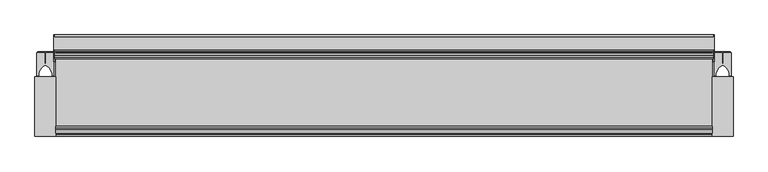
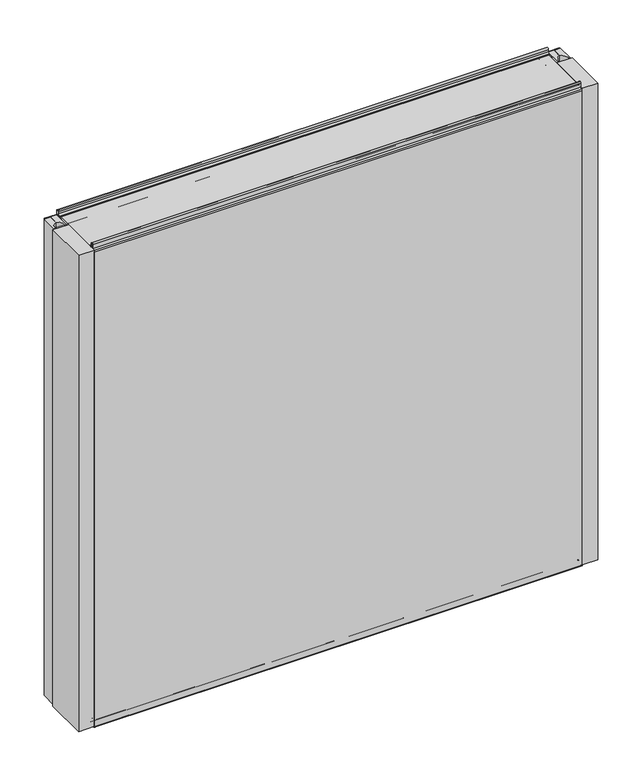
"""IFC4 building model written with IfcOpenShell, lengths in millimetres: plate geometry, Fronttop : Fronttop 150/1000."""

from ifc_helpers import new_model, si_unit, point, frame, frame_2d, origin, origin_with_axes, place, context, project, spatial, polyline, circle_curve, trimmed, segment, composite_curve, outline, extrude, source, transform, mapped, element, save
from ifc_brep_helpers import plane_surface, cylinder_surface, revolved_surface, advanced_brep


def plate_a368a3c0(model_context):
    return source(origin(), model_context, "Body", "SolidModel", [
        advanced_brep(
        [(-486.5, 124.0, 1008.0), (-486.5, 121.0, 1008.0), (-486.5, 121.0, 1004.0), (-486.5, 117.0, 1000.0), (-486.5, 115.0, 1000.0), (-486.5, 115.0, 1001.0), (-486.5, 117.0, 1001.0), (-486.5, 120.0, 1004.0), (-486.5, 120.0, 1008.0), (-486.5, 125.0, 1008.0), (-486.5, 125.0, 1000.0), (-486.5, 124.0, 1000.0), (486.5, 125.0, 1008.0), (486.5, 120.0, 1008.0), (486.5, 120.0, 1004.0), (486.5, 117.0, 1001.0), (486.5, 115.0, 1001.0), (486.5, 115.0, 1000.0), (486.5, 117.0, 1000.0), (486.5, 121.0, 1004.0), (486.5, 121.0, 1008.0), (486.5, 124.0, 1008.0), (486.5, 124.0, 1000.0), (486.5, 125.0, 1000.0), (-486.5, 117.0, 2.0), (486.5, 117.0, 2.0), (486.5, 115.0, 2.0), (-486.5, 115.0, 2.0), (-486.5, 119.0, 4.0), (486.5, 119.0, 4.0), (-486.5, 119.0, 8.0), (486.5, 119.0, 8.0), (-486.5, 126.0, 8.0), (486.5, 126.0, 8.0), (-486.5, 126.0, 0.0), (486.5, 126.0, 0.0), (-486.5, 129.0, -3.0), (486.5, 129.0, -3.0), (-486.5, 125.0, -3.0), (-487.5, 125.0, -3.0), (-487.5, 147.0, -3.0), (-486.5, 147.0, -3.0), (486.5, 147.0, -3.0), (487.5, 147.0, -3.0), (487.5, 125.0, -3.0), (486.5, 125.0, -3.0), (-486.5, 150.0, 0.0), (486.5, 150.0, 0.0), (-487.5, 150.0, 0.0), (-487.5, 150.0, 969.0), (-486.5, 150.0, 969.0), (486.5, 150.0, 969.0), (487.5, 150.0, 969.0), (487.5, 150.0, 0.0), (-486.5, 147.0, 972.0), (486.5, 147.0, 972.0), (-487.5, 147.0, 972.0), (-487.5, 128.0, 972.0), (-486.5, 128.0, 972.0), (486.5, 128.0, 972.0), (487.5, 128.0, 972.0), (487.5, 147.0, 972.0), (-486.5, 125.0, 975.0), (486.5, 125.0, 975.0), (-487.5, 125.0, 975.0), (-487.5, 125.0, 1000.0), (487.5, 125.0, 1000.0), (487.5, 125.0, 975.0), (-486.5, 124.0, 975.0), (486.5, 124.0, 975.0), (-486.5, 128.0, 971.0), (486.5, 128.0, 971.0), (-486.5, 147.0, 971.0), (486.5, 147.0, 971.0), (-486.5, 149.0, 969.0), (486.5, 149.0, 969.0), (-486.5, 149.0, 0.0), (486.5, 149.0, 0.0), (-486.5, 147.0, -2.0), (486.5, 147.0, -2.0), (-486.5, 129.0, -2.0), (486.5, 129.0, -2.0), (-486.5, 127.0, 0.0), (486.5, 127.0, 0.0), (-486.5, 127.0, 8.0), (486.5, 127.0, 8.0), (-486.5, 118.0, 8.0), (486.5, 118.0, 8.0), (-486.5, 118.0, 4.0), (486.5, 118.0, 4.0), (-486.5, 117.0, 3.0), (486.5, 117.0, 3.0), (-486.5, 115.0, 3.0), (486.5, 115.0, 3.0), (487.5, 110.0, 1000.0), (487.5, 110.0, 0.0), (487.5, 125.0, 0.0), (486.5, 125.0, 0.0), (486.5, 110.0, 0.0), (486.5, 110.0, 1000.0), (-487.5, 125.0, 0.0), (-487.5, 110.0, 0.0), (-487.5, 110.0, 1000.0), (-486.5, 110.0, 1000.0), (-486.5, 110.0, 0.0), (-486.5, 125.0, 0.0)],
        [
            (0, 1, circle_curve(frame((-486.5, 122.5, 1008.0), z_axis=(1.0, 0.0, 0.0), x_axis=(0.0, -1.0, 0.0)), 1.5)),
            (1, 2),
            (2, 3, circle_curve(frame((-486.5, 117.0, 1004.0), z_axis=(-1.0, 0.0, 0.0), x_axis=(0.0, -1.0, 0.0)), 4.0)),
            (3, 4),
            (4, 5),
            (5, 6),
            (6, 7, circle_curve(frame((-486.5, 117.0, 1004.0), z_axis=(1.0, 0.0, 0.0), x_axis=(0.0, -1.0, 0.0)), 3.0)),
            (7, 8),
            (8, 9, circle_curve(frame((-486.5, 122.5, 1008.0), z_axis=(-1.0, 0.0, 0.0), x_axis=(0.0, -1.0, 0.0)), 2.5)),
            (9, 10),
            (10, 11),
            (11, 0),
            (12, 13, circle_curve(frame((486.5, 122.5, 1008.0), z_axis=(1.0, 0.0, 0.0), x_axis=(0.0, -1.0, 0.0)), 2.5)),
            (13, 14),
            (14, 15, circle_curve(frame((486.5, 117.0, 1004.0), z_axis=(-1.0, 0.0, 0.0), x_axis=(0.0, -1.0, 0.0)), 3.0)),
            (15, 16),
            (16, 17),
            (17, 18),
            (18, 19, circle_curve(frame((486.5, 117.0, 1004.0), z_axis=(1.0, 0.0, 0.0), x_axis=(0.0, -1.0, 0.0)), 4.0)),
            (19, 20),
            (20, 21, circle_curve(frame((486.5, 122.5, 1008.0), z_axis=(-1.0, 0.0, 0.0), x_axis=(0.0, -1.0, 0.0)), 1.5)),
            (21, 22),
            (22, 23),
            (23, 12),
            (24, 25),
            (25, 26),
            (26, 27),
            (27, 24),
            (24, 28, circle_curve(frame((-486.5, 117.0, 4.0), z_axis=(1.0, 0.0, 0.0), x_axis=(0.0, -1.0, 0.0)), 2.0)),
            (28, 29),
            (29, 25, circle_curve(frame((486.5, 117.0, 4.0), z_axis=(-1.0, 0.0, 0.0), x_axis=(0.0, -1.0, 0.0)), 2.0)),
            (28, 30),
            (30, 31),
            (31, 29),
            (30, 32, circle_curve(frame((-486.5, 122.5, 8.0), z_axis=(-1.0, 0.0, 0.0), x_axis=(0.0, -1.0, 0.0)), 3.5)),
            (32, 33),
            (33, 31, circle_curve(frame((486.5, 122.5, 8.0), z_axis=(1.0, 0.0, 0.0), x_axis=(0.0, -1.0, 0.0)), 3.5)),
            (32, 34),
            (34, 35),
            (35, 33),
            (34, 36, circle_curve(frame((-486.5, 129.0, 0.0), z_axis=(1.0, 0.0, 0.0), x_axis=(0.0, -1.0, 0.0)), 3.0)),
            (36, 37),
            (37, 35, circle_curve(frame((486.5, 129.0, 0.0), z_axis=(-1.0, 0.0, 0.0), x_axis=(0.0, -1.0, 0.0)), 3.0)),
            (36, 38),
            (38, 39),
            (39, 40),
            (40, 41),
            (41, 42),
            (42, 43),
            (43, 44),
            (44, 45),
            (45, 37),
            (41, 46, circle_curve(frame((-486.5, 147.0, 0.0), z_axis=(1.0, 0.0, 0.0), x_axis=(0.0, -1.0, 0.0)), 3.0)),
            (46, 47),
            (47, 42, circle_curve(frame((486.5, 147.0, 0.0), z_axis=(-1.0, 0.0, 0.0), x_axis=(0.0, -1.0, 0.0)), 3.0)),
            (46, 48),
            (48, 49),
            (49, 50),
            (50, 51),
            (51, 52),
            (52, 53),
            (53, 47),
            (50, 54, circle_curve(frame((-486.5, 147.0, 969.0), z_axis=(1.0, 0.0, 0.0), x_axis=(0.0, -1.0, 0.0)), 3.0)),
            (54, 55),
            (55, 51, circle_curve(frame((486.5, 147.0, 969.0), z_axis=(-1.0, 0.0, 0.0), x_axis=(0.0, -1.0, 0.0)), 3.0)),
            (54, 56),
            (56, 57),
            (57, 58),
            (58, 59),
            (59, 60),
            (60, 61),
            (61, 55),
            (58, 62, circle_curve(frame((-486.5, 128.0, 975.0), z_axis=(-1.0, 0.0, 0.0), x_axis=(0.0, -1.0, 0.0)), 3.0)),
            (62, 63),
            (63, 59, circle_curve(frame((486.5, 128.0, 975.0), z_axis=(1.0, 0.0, 0.0), x_axis=(0.0, -1.0, 0.0)), 3.0)),
            (62, 64),
            (64, 65),
            (65, 10),
            (9, 12),
            (23, 66),
            (66, 67),
            (67, 63),
            (8, 13),
            (7, 14),
            (6, 15),
            (5, 16),
            (4, 17),
            (4, 3),
            (3, 18),
            (18, 17),
            (2, 19),
            (1, 20),
            (0, 21),
            (11, 68),
            (68, 69),
            (69, 22),
            (68, 70, circle_curve(frame((-486.5, 128.0, 975.0), z_axis=(1.0, 0.0, 0.0), x_axis=(0.0, -1.0, 0.0)), 4.0)),
            (70, 71),
            (71, 69, circle_curve(frame((486.5, 128.0, 975.0), z_axis=(-1.0, 0.0, 0.0), x_axis=(0.0, -1.0, 0.0)), 4.0)),
            (70, 72),
            (72, 73),
            (73, 71),
            (72, 74, circle_curve(frame((-486.5, 147.0, 969.0), z_axis=(-1.0, 0.0, 0.0), x_axis=(0.0, -1.0, 0.0)), 2.0)),
            (74, 75),
            (75, 73, circle_curve(frame((486.5, 147.0, 969.0), z_axis=(1.0, 0.0, 0.0), x_axis=(0.0, -1.0, 0.0)), 2.0)),
            (74, 76),
            (76, 77),
            (77, 75),
            (76, 78, circle_curve(frame((-486.5, 147.0, 0.0), z_axis=(-1.0, 0.0, 0.0), x_axis=(0.0, -1.0, 0.0)), 2.0)),
            (78, 79),
            (79, 77, circle_curve(frame((486.5, 147.0, 0.0), z_axis=(1.0, 0.0, 0.0), x_axis=(0.0, -1.0, 0.0)), 2.0)),
            (78, 80),
            (80, 81),
            (81, 79),
            (80, 82, circle_curve(frame((-486.5, 129.0, 0.0), z_axis=(-1.0, 0.0, 0.0), x_axis=(0.0, -1.0, 0.0)), 2.0)),
            (82, 83),
            (83, 81, circle_curve(frame((486.5, 129.0, 0.0), z_axis=(1.0, 0.0, 0.0), x_axis=(0.0, -1.0, 0.0)), 2.0)),
            (82, 84),
            (84, 85),
            (85, 83),
            (84, 86, circle_curve(frame((-486.5, 122.5, 8.0), z_axis=(1.0, 0.0, 0.0), x_axis=(0.0, -1.0, 0.0)), 4.5)),
            (86, 87),
            (87, 85, circle_curve(frame((486.5, 122.5, 8.0), z_axis=(-1.0, 0.0, 0.0), x_axis=(0.0, -1.0, 0.0)), 4.5)),
            (86, 88),
            (88, 89),
            (89, 87),
            (88, 90, circle_curve(frame((-486.5, 117.0, 4.0), z_axis=(-1.0, 0.0, 0.0), x_axis=(0.0, -1.0, 0.0)), 1.0)),
            (90, 91),
            (91, 89, circle_curve(frame((486.5, 117.0, 4.0), z_axis=(1.0, 0.0, 0.0), x_axis=(0.0, -1.0, 0.0)), 1.0)),
            (90, 92),
            (92, 93),
            (93, 91),
            (26, 93),
            (92, 27),
            (66, 94),
            (94, 95),
            (95, 96),
            (96, 44),
            (43, 53, circle_curve(frame((487.5, 147.0, 0.0), z_axis=(1.0, 0.0, 0.0), x_axis=(0.0, 1.0, 0.0)), 3.0)),
            (52, 61, circle_curve(frame((487.5, 147.0, 969.0), z_axis=(1.0, 0.0, 0.0), x_axis=(0.0, 1.0, 0.0)), 3.0)),
            (60, 67, circle_curve(frame((487.5, 128.0, 975.0), z_axis=(-1.0, 0.0, 0.0), x_axis=(0.0, 1.0, 0.0)), 3.0)),
            (45, 97),
            (97, 98),
            (98, 99),
            (99, 17),
            (18, 22),
            (99, 94),
            (98, 95),
            (97, 96),
            (64, 57, circle_curve(frame((-487.5, 128.0, 975.0), z_axis=(1.0, 0.0, 0.0), x_axis=(0.0, 1.0, 0.0)), 3.0)),
            (56, 49, circle_curve(frame((-487.5, 147.0, 969.0), z_axis=(-1.0, 0.0, 0.0), x_axis=(0.0, 1.0, 0.0)), 3.0)),
            (48, 40, circle_curve(frame((-487.5, 147.0, 0.0), z_axis=(-1.0, 0.0, 0.0), x_axis=(0.0, 1.0, 0.0)), 3.0)),
            (39, 100),
            (100, 101),
            (101, 102),
            (102, 65),
            (103, 104),
            (104, 105),
            (105, 38),
            (11, 3),
            (4, 103),
            (102, 103),
            (101, 104),
            (100, 105),
        ],
        [
            plane_surface(frame((-486.5, 0.0, 0.0), z_axis=(-1.0, 0.0, 0.0), x_axis=(0.0, 0.0, 1.0))),
            plane_surface(frame((486.5, 0.0, 0.0), z_axis=(1.0, 0.0, 0.0), x_axis=(0.0, 0.0, 1.0))),
            plane_surface(frame((-486.5, 117.0, 2.0), z_axis=(0.0, 0.0, -1.0), x_axis=(1.0, 0.0, 0.0))),
            cylinder_surface(frame((-486.5, 117.0, 4.0), z_axis=(-1.0, 0.0, 0.0), x_axis=(0.0, -1.0, 0.0)), 2.0),
            plane_surface(frame((-486.5, 119.0, 8.0), z_axis=(0.0, 1.0, 0.0), x_axis=(1.0, 0.0, 0.0))),
            revolved_surface(polyline([(486.5, 119.0, 8.0), (-486.5, 119.0, 8.0)]), (-486.5, 122.5, 8.0), (1.0, 0.0, 0.0)),
            plane_surface(frame((-486.5, 126.0, 0.0), z_axis=(0.0, -1.0, 0.0), x_axis=(1.0, 0.0, 0.0))),
            cylinder_surface(frame((-486.5, 129.0, 0.0), z_axis=(-1.0, 0.0, 0.0), x_axis=(0.0, -1.0, 0.0)), 3.0),
            plane_surface(frame((-486.5, 147.0, -3.0), z_axis=(0.0, 0.0, -1.0), x_axis=(1.0, 0.0, 0.0))),
            cylinder_surface(frame((-486.5, 147.0, 0.0), z_axis=(-1.0, 0.0, 0.0), x_axis=(0.0, -1.0, 0.0)), 3.0),
            plane_surface(frame((-486.5, 150.0, 969.0), z_axis=(0.0, 1.0, 0.0), x_axis=(1.0, 0.0, 0.0))),
            cylinder_surface(frame((-486.5, 147.0, 969.0), z_axis=(-1.0, 0.0, 0.0), x_axis=(0.0, -1.0, 0.0)), 3.0),
            plane_surface(frame((-486.5, 128.0, 972.0), z_axis=(0.0, 0.0, 1.0), x_axis=(1.0, 0.0, 0.0))),
            revolved_surface(polyline([(486.5, 125.0, 975.0), (-486.5, 125.0, 975.0)]), (-486.5, 128.0, 975.0), (1.0, 0.0, 0.0)),
            plane_surface(frame((-486.5, 125.0, 1008.0), z_axis=(0.0, 1.0, 0.0), x_axis=(1.0, 0.0, 0.0))),
            cylinder_surface(frame((-486.5, 122.5, 1008.0), z_axis=(-1.0, 0.0, 0.0), x_axis=(0.0, -1.0, 0.0)), 2.5),
            plane_surface(frame((-486.5, 120.0, 1004.0), z_axis=(0.0, -1.0, 0.0), x_axis=(1.0, 0.0, 0.0))),
            revolved_surface(polyline([(486.5, 114.0, 1004.0), (-486.5, 114.0, 1004.0)]), (-486.5, 117.0, 1004.0), (1.0, 0.0, 0.0)),
            plane_surface(frame((-486.5, 115.0, 1001.0), z_axis=(0.0, 0.0, 1.0), x_axis=(1.0, 0.0, 0.0))),
            plane_surface(frame((-486.5, 115.0, 1000.0), z_axis=(0.0, -1.0, 0.0), x_axis=(1.0, 0.0, 0.0))),
            plane_surface(frame((-486.5, 117.0, 1000.0), z_axis=(0.0, 0.0, -1.0), x_axis=(1.0, 0.0, 0.0))),
            cylinder_surface(frame((-486.5, 117.0, 1004.0), z_axis=(-1.0, 0.0, 0.0), x_axis=(0.0, -1.0, 0.0)), 4.0),
            plane_surface(frame((-486.5, 121.0, 1008.0), z_axis=(0.0, 1.0, 0.0), x_axis=(1.0, 0.0, 0.0))),
            revolved_surface(polyline([(486.5, 121.0, 1008.0), (-486.5, 121.0, 1008.0)]), (-486.5, 122.5, 1008.0), (1.0, 0.0, 0.0)),
            plane_surface(frame((-486.5, 124.0, 975.0), z_axis=(0.0, -1.0, 0.0), x_axis=(1.0, 0.0, 0.0))),
            cylinder_surface(frame((-486.5, 128.0, 975.0), z_axis=(-1.0, 0.0, 0.0), x_axis=(0.0, -1.0, 0.0)), 4.0),
            plane_surface(frame((-486.5, 147.0, 971.0), z_axis=(0.0, 0.0, -1.0), x_axis=(1.0, 0.0, 0.0))),
            revolved_surface(polyline([(486.5, 145.0, 969.0), (-486.5, 145.0, 969.0)]), (-486.5, 147.0, 969.0), (1.0, 0.0, 0.0)),
            plane_surface(frame((-486.5, 149.0, 0.0), z_axis=(0.0, -1.0, 0.0), x_axis=(1.0, 0.0, 0.0))),
            revolved_surface(polyline([(486.5, 145.0, 0.0), (-486.5, 145.0, 0.0)]), (-486.5, 147.0, 0.0), (1.0, 0.0, 0.0)),
            plane_surface(frame((-486.5, 129.0, -2.0), z_axis=(0.0, 0.0, 1.0), x_axis=(1.0, 0.0, 0.0))),
            revolved_surface(polyline([(486.5, 127.0, 0.0), (-486.5, 127.0, 0.0)]), (-486.5, 129.0, 0.0), (1.0, 0.0, 0.0)),
            plane_surface(frame((-486.5, 127.0, 8.0), z_axis=(0.0, 1.0, 0.0), x_axis=(1.0, 0.0, 0.0))),
            cylinder_surface(frame((-486.5, 122.5, 8.0), z_axis=(-1.0, 0.0, 0.0), x_axis=(0.0, -1.0, 0.0)), 4.5),
            plane_surface(frame((-486.5, 118.0, 4.0), z_axis=(0.0, -1.0, 0.0), x_axis=(1.0, 0.0, 0.0))),
            revolved_surface(polyline([(486.5, 116.0, 4.0), (-486.5, 116.0, 4.0)]), (-486.5, 117.0, 4.0), (1.0, 0.0, 0.0)),
            plane_surface(frame((-486.5, 115.0, 3.0), z_axis=(0.0, 0.0, 1.0), x_axis=(1.0, 0.0, 0.0))),
            plane_surface(frame((-486.5, 115.0, 2.0), z_axis=(0.0, -1.0, 0.0), x_axis=(1.0, 0.0, 0.0))),
            plane_surface(frame((487.5, 125.0, 1000.0), z_axis=(1.0, 0.0, 0.0), x_axis=(0.0, -1.0, 0.0))),
            plane_surface(frame((486.5, 125.0, 1000.0), z_axis=(-1.0, 0.0, 0.0), x_axis=(0.0, 1.0, 0.0))),
            plane_surface(frame((487.5, 125.0, 1000.0), z_axis=(0.0, 0.0, 1.0), x_axis=(-1.0, 0.0, 0.0))),
            plane_surface(frame((487.5, 110.0, 1000.0), z_axis=(0.0, -1.0, 0.0), x_axis=(-1.0, 0.0, 0.0))),
            plane_surface(frame((487.5, 110.0, 0.0), z_axis=(0.0, 0.0, -1.0), x_axis=(-1.0, 0.0, 0.0))),
            cylinder_surface(frame((486.5, 147.0, 0.0), z_axis=(1.0, 0.0, 0.0), x_axis=(0.0, 1.0, 0.0)), 3.0),
            cylinder_surface(frame((486.5, 147.0, 969.0), z_axis=(1.0, 0.0, 0.0), x_axis=(0.0, 1.0, 0.0)), 3.0),
            revolved_surface(polyline([(486.5, 131.0, 975.0), (487.5, 131.0, 975.0)]), (486.5, 128.0, 975.0), (-1.0, 0.0, 0.0)),
            plane_surface(frame((-487.5, 125.0, 1000.0), z_axis=(-1.0, 0.0, 0.0), x_axis=(0.0, 1.0, 0.0))),
            plane_surface(frame((-486.5, 125.0, 1000.0), z_axis=(1.0, 0.0, 0.0), x_axis=(0.0, -1.0, 0.0))),
            plane_surface(frame((-486.5, 125.0, 1000.0), z_axis=(0.0, 0.0, 1.0), x_axis=(-1.0, 0.0, 0.0))),
            plane_surface(frame((-486.5, 110.0, 1000.0), z_axis=(0.0, -1.0, 0.0), x_axis=(-1.0, 0.0, 0.0))),
            plane_surface(frame((-486.5, 110.0, 0.0), z_axis=(0.0, 0.0, -1.0), x_axis=(-1.0, 0.0, 0.0))),
            cylinder_surface(frame((-487.5, 147.0, 0.0), z_axis=(1.0, 0.0, 0.0), x_axis=(0.0, 1.0, 0.0)), 3.0),
            cylinder_surface(frame((-487.5, 147.0, 969.0), z_axis=(1.0, 0.0, 0.0), x_axis=(0.0, 1.0, 0.0)), 3.0),
            revolved_surface(polyline([(-487.5, 131.0, 975.0), (-486.5, 131.0, 975.0)]), (-487.5, 128.0, 975.0), (-1.0, 0.0, 0.0)),
            plane_surface(frame((487.5, 125.0, 0.0), z_axis=(0.0, -1.0, 0.0), x_axis=(-1.0, 0.0, 0.0))),
            plane_surface(frame((-486.5, 125.0, 0.0), z_axis=(0.0, -1.0, 0.0), x_axis=(-1.0, 0.0, 0.0))),
        ],
        [
            (0, [[1, 2, 3, 4, 5, 6, 7, 8, 9, 10, 11, 12]]),
            (1, [[13, 14, 15, 16, 17, 18, 19, 20, 21, 22, 23, 24]]),
            (2, [[25, 26, 27, 28]]),
            (3, [[-25, 29, 30, 31]]),
            (4, [[-30, 32, 33, 34]]),
            (5, [[-33, 35, 36, 37]]),
            (6, [[-36, 38, 39, 40]]),
            (7, [[-39, 41, 42, 43]]),
            (8, [[-42, 44, 45, 46, 47, 48, 49, 50, 51, 52]]),
            (9, [[-48, 53, 54, 55]]),
            (10, [[-54, 56, 57, 58, 59, 60, 61, 62]]),
            (11, [[-59, 63, 64, 65]]),
            (12, [[-64, 66, 67, 68, 69, 70, 71, 72]]),
            (13, [[-69, 73, 74, 75]]),
            (14, [[-74, 76, 77, 78, -10, 79, -24, 80, 81, 82]]),
            (15, [[-9, 83, -13, -79]]),
            (16, [[-8, 84, -14, -83]]),
            (17, [[-7, 85, -15, -84]]),
            (18, [[-6, 86, -16, -85]]),
            (19, [[-5, 87, -17, -86]]),
            (20, [[-87, 88, 89, 90]]),
            (21, [[-3, 91, -19, -89]]),
            (22, [[-2, 92, -20, -91]]),
            (23, [[-1, 93, -21, -92]]),
            (24, [[-93, -12, 94, 95, 96, -22]]),
            (25, [[-95, 97, 98, 99]]),
            (26, [[-98, 100, 101, 102]]),
            (27, [[-101, 103, 104, 105]]),
            (28, [[-104, 106, 107, 108]]),
            (29, [[-107, 109, 110, 111]]),
            (30, [[-110, 112, 113, 114]]),
            (31, [[-113, 115, 116, 117]]),
            (32, [[-116, 118, 119, 120]]),
            (33, [[-119, 121, 122, 123]]),
            (34, [[-122, 124, 125, 126]]),
            (35, [[-125, 127, 128, 129]]),
            (36, [[-128, 130, 131, 132]]),
            (37, [[-27, 133, -131, 134]]),
            (38, [[135, 136, 137, 138, -50, 139, -61, 140, -71, 141, -81]]),
            (39, [[142, 143, 144, 145, -90, 146, -96, -99, -102, -105, -108, -111, -114, -117, -120, -123, -126, -129, -132, -133, -26, -31, -34, -37, -40, -43, -52]]),
            (40, [[-135, -80, -23, -146, -18, -145, 147]]),
            (41, [[-136, -147, -144, 148]]),
            (42, [[-137, -148, -143, 149]]),
            (43, [[-139, -49, -55, -62]]),
            (44, [[-140, -60, -65, -72]]),
            (45, [[-141, -70, -75, -82]]),
            (46, [[-77, 150, -67, 151, -57, 152, -46, 153, 154, 155, 156]]),
            (47, [[157, 158, 159, -44, -41, -38, -35, -32, -29, -28, -134, -130, -127, -124, -121, -118, -115, -112, -109, -106, -103, -100, -97, -94, 160, -88, 161]]),
            (48, [[-156, 162, -161, -4, -160, -11, -78]]),
            (49, [[-155, 163, -157, -162]]),
            (50, [[-154, 164, -158, -163]]),
            (51, [[-152, -56, -53, -47]]),
            (52, [[-151, -66, -63, -58]]),
            (53, [[-150, -76, -73, -68]]),
            (54, [[-138, -149, -142, -51]]),
            (55, [[-153, -45, -159, -164]]),
        ],
    ),
        extrude(outline(composite_curve([segment(polyline([(-512.5001545, 123.5), (-500.75, 123.5), (-500.75, 107.5), (-499.25, 107.5), (-499.25, 123.5), (-487.4998455, 123.5), (-487.4998455, 90.0), (-490.25, 90.0), (-490.25, 92.5)]), True, "CONTINUOUS"), segment(trimmed(circle_curve(frame_2d((-508.0338021, 89.3183984)), 18.0661619), [point((-490.25, 92.5))], [point((-500.0, 105.5))], True, "CARTESIAN"), True, "CONTINUOUS"), segment(trimmed(circle_curve(frame_2d((-491.9661979, 89.3183984)), 18.0661619), [point((-500.0, 105.5))], [point((-509.75, 92.5))], True, "CARTESIAN"), True, "CONTINUOUS"), segment(polyline([(-509.75, 92.5), (-509.75, 90.0), (-512.5001545, 90.0), (-512.5001545, 123.5)]), True, "CONTINUOUS")], self_intersect=False)), origin_with_axes(), (0.0, 0.0, 1.0), 1000.0),
        extrude(outline(polyline([(-484.5, 0.0), (-515.5, 0.0), (-515.5, 88.0), (-484.5, 88.0), (-484.5, 0.0)])), origin_with_axes(), (0.0, 0.0, 1.0), 1000.0),
        extrude(outline(polyline([(-511.5051154, 125.0), (-488.4948846, 125.0), (-488.4948846, 123.5), (-499.3497504, 123.5), (-499.3497504, 109.0759655), (-500.65, 109.0759655), (-500.65, 123.5), (-511.5051154, 123.5), (-511.5051154, 125.0)])), origin_with_axes(), (0.0, 0.0, 1.0), 1000.0),
        extrude(outline(composite_curve([segment(polyline([(487.4998455, 123.5), (499.25, 123.5), (499.25, 107.5), (500.75, 107.5), (500.75, 123.5), (512.5001545, 123.5), (512.5001545, 90.0), (509.75, 90.0), (509.75, 92.5)]), True, "CONTINUOUS"), segment(trimmed(circle_curve(frame_2d((491.9661979, 89.3183984)), 18.0661619), [point((509.75, 92.5))], [point((500.0, 105.5))], True, "CARTESIAN"), True, "CONTINUOUS"), segment(trimmed(circle_curve(frame_2d((508.0338021, 89.3183984)), 18.0661619), [point((500.0, 105.5))], [point((490.25, 92.5))], True, "CARTESIAN"), True, "CONTINUOUS"), segment(polyline([(490.25, 92.5), (490.25, 90.0), (487.4998455, 90.0), (487.4998455, 123.5)]), True, "CONTINUOUS")], self_intersect=False)), origin_with_axes(), (0.0, 0.0, 1.0), 1000.0),
        extrude(outline(polyline([(515.5, 0.0), (484.5, 0.0), (484.5, 88.0), (515.5, 88.0), (515.5, 0.0)])), origin_with_axes(), (0.0, 0.0, 1.0), 1000.0),
        extrude(outline(polyline([(488.4948846, 125.0), (511.5051154, 125.0), (511.5051154, 123.5), (500.6502496, 123.5), (500.6502496, 109.0759655), (499.35, 109.0759655), (499.35, 123.5), (488.4948846, 123.5), (488.4948846, 125.0)])), origin_with_axes(), (0.0, 0.0, 1.0), 1000.0),
        advanced_brep(
        [(-484.5, 13.0, 1001.0), (-484.5, 15.0, 1001.0), (-484.5, 15.0, 1000.0), (-484.5, 13.0, 1000.0), (-484.5, 9.0, 1004.0), (-484.5, 9.0, 1008.0), (-484.5, 6.0, 1008.0), (-484.5, 6.0, 999.5), (-484.5, 2.1134897, 996.0214069), (-484.5, 1.0, 995.0), (-484.5, 1.0, -0.5), (-484.5, 3.0, -0.5), (-484.5, 3.0, 8.0), (-484.5, 12.0, 8.0), (-484.5, 12.0, 4.0), (-484.5, 13.0, 3.0), (-484.5, 15.0, 3.0), (-484.5, 15.0, 2.0), (-484.5, 13.0, 2.0), (-484.5, 11.0, 4.0), (-484.5, 11.0, 8.0), (-484.5, 4.0, 8.0), (-484.5, 4.0, -0.5), (-484.5, 0.0, -0.5), (-484.5, 0.0, 995.0), (-484.5, 2.220863, 996.9877675), (-484.5, 5.0, 999.5), (-484.5, 5.0, 1008.0), (-484.5, 10.0, 1008.0), (-484.5, 10.0, 1004.0), (484.5, 13.0, 1001.0), (484.5, 10.0, 1004.0), (484.5, 10.0, 1008.0), (484.5, 5.0, 1008.0), (484.5, 5.0, 999.5), (484.5, 2.2239212, 997.0152907), (484.5, 0.0, 995.0), (484.5, 0.0, -0.5), (484.5, 4.0, -0.5), (484.5, 4.0, 8.0), (484.5, 11.0, 8.0), (484.5, 11.0, 4.0), (484.5, 13.0, 2.0), (484.5, 15.0, 2.0), (484.5, 15.0, 3.0), (484.5, 13.0, 3.0), (484.5, 12.0, 4.0), (484.5, 12.0, 8.0), (484.5, 3.0, 8.0), (484.5, 3.0, -0.5), (484.5, 1.0, -0.5), (484.5, 1.0, 995.0), (484.5, 2.1104315, 995.9938837), (484.5, 6.0, 999.5), (484.5, 6.0, 1008.0), (484.5, 9.0, 1008.0), (484.5, 9.0, 1004.0), (484.5, 13.0, 1000.0), (484.5, 15.0, 1000.0), (484.5, 15.0, 1001.0)],
        [
            (0, 1),
            (1, 2),
            (2, 3),
            (3, 4, circle_curve(frame((-484.5, 13.0, 1004.0), z_axis=(-1.0, 0.0, 0.0), x_axis=(0.0, -1.0, 0.0)), 4.0)),
            (4, 5),
            (5, 6, circle_curve(frame((-484.5, 7.5, 1008.0), z_axis=(1.0, 0.0, 0.0), x_axis=(0.0, -1.0, 0.0)), 1.5)),
            (6, 7),
            (7, 8, circle_curve(frame((-484.5, 2.5, 999.5), z_axis=(-1.0, 0.0, 0.0), x_axis=(0.0, -1.0, 0.0)), 3.5)),
            (8, 9, circle_curve(frame((-484.5, 2.0, 995.0), z_axis=(1.0, 0.0, 0.0), x_axis=(0.0, -1.0, 0.0)), 1.0)),
            (9, 10),
            (10, 11, circle_curve(frame((-484.5, 2.0, -0.5), z_axis=(1.0, 0.0, 0.0), x_axis=(0.0, -1.0, 0.0)), 1.0)),
            (11, 12),
            (12, 13, circle_curve(frame((-484.5, 7.5, 8.0), z_axis=(-1.0, 0.0, 0.0), x_axis=(0.0, -1.0, 0.0)), 4.5)),
            (13, 14),
            (14, 15, circle_curve(frame((-484.5, 13.0, 4.0), z_axis=(1.0, 0.0, 0.0), x_axis=(0.0, -1.0, 0.0)), 1.0)),
            (15, 16),
            (16, 17),
            (17, 18),
            (18, 19, circle_curve(frame((-484.5, 13.0, 4.0), z_axis=(-1.0, 0.0, 0.0), x_axis=(0.0, -1.0, 0.0)), 2.0)),
            (19, 20),
            (20, 21, circle_curve(frame((-484.5, 7.5, 8.0), z_axis=(1.0, 0.0, 0.0), x_axis=(0.0, -1.0, 0.0)), 3.5)),
            (21, 22),
            (22, 23, circle_curve(frame((-484.5, 2.0, -0.5), z_axis=(-1.0, 0.0, 0.0), x_axis=(0.0, -1.0, 0.0)), 2.0)),
            (23, 24),
            (24, 25, circle_curve(frame((-484.5, 2.0, 995.0), z_axis=(-1.0, 0.0, 0.0), x_axis=(0.0, -1.0, 0.0)), 2.0)),
            (25, 26, circle_curve(frame((-484.5, 2.5, 999.5), z_axis=(1.0, 0.0, 0.0), x_axis=(0.0, -1.0, 0.0)), 2.5)),
            (26, 27),
            (27, 28, circle_curve(frame((-484.5, 7.5, 1008.0), z_axis=(-1.0, 0.0, 0.0), x_axis=(0.0, -1.0, 0.0)), 2.5)),
            (28, 29),
            (29, 0, circle_curve(frame((-484.5, 13.0, 1004.0), z_axis=(1.0, 0.0, 0.0), x_axis=(0.0, -1.0, 0.0)), 3.0)),
            (30, 31, circle_curve(frame((484.5, 13.0, 1004.0), z_axis=(-1.0, 0.0, 0.0), x_axis=(0.0, -1.0, 0.0)), 3.0)),
            (31, 32),
            (32, 33, circle_curve(frame((484.5, 7.5, 1008.0), z_axis=(1.0, 0.0, 0.0), x_axis=(0.0, -1.0, 0.0)), 2.5)),
            (33, 34),
            (34, 35, circle_curve(frame((484.5, 2.5, 999.5), z_axis=(-1.0, 0.0, 0.0), x_axis=(0.0, -1.0, 0.0)), 2.5)),
            (35, 36, circle_curve(frame((484.5, 2.0, 995.0), z_axis=(1.0, 0.0, 0.0), x_axis=(0.0, -1.0, 0.0)), 2.0)),
            (36, 37),
            (37, 38, circle_curve(frame((484.5, 2.0, -0.5), z_axis=(1.0, 0.0, 0.0), x_axis=(0.0, -1.0, 0.0)), 2.0)),
            (38, 39),
            (39, 40, circle_curve(frame((484.5, 7.5, 8.0), z_axis=(-1.0, 0.0, 0.0), x_axis=(0.0, -1.0, 0.0)), 3.5)),
            (40, 41),
            (41, 42, circle_curve(frame((484.5, 13.0, 4.0), z_axis=(1.0, 0.0, 0.0), x_axis=(0.0, -1.0, 0.0)), 2.0)),
            (42, 43),
            (43, 44),
            (44, 45),
            (45, 46, circle_curve(frame((484.5, 13.0, 4.0), z_axis=(-1.0, 0.0, 0.0), x_axis=(0.0, -1.0, 0.0)), 1.0)),
            (46, 47),
            (47, 48, circle_curve(frame((484.5, 7.5, 8.0), z_axis=(1.0, 0.0, 0.0), x_axis=(0.0, -1.0, 0.0)), 4.5)),
            (48, 49),
            (49, 50, circle_curve(frame((484.5, 2.0, -0.5), z_axis=(-1.0, 0.0, 0.0), x_axis=(0.0, -1.0, 0.0)), 1.0)),
            (50, 51),
            (51, 52, circle_curve(frame((484.5, 2.0, 995.0), z_axis=(-1.0, 0.0, 0.0), x_axis=(0.0, -1.0, 0.0)), 1.0)),
            (52, 53, circle_curve(frame((484.5, 2.5, 999.5), z_axis=(1.0, 0.0, 0.0), x_axis=(0.0, -1.0, 0.0)), 3.5)),
            (53, 54),
            (54, 55, circle_curve(frame((484.5, 7.5, 1008.0), z_axis=(-1.0, 0.0, 0.0), x_axis=(0.0, -1.0, 0.0)), 1.5)),
            (55, 56),
            (56, 57, circle_curve(frame((484.5, 13.0, 1004.0), z_axis=(1.0, 0.0, 0.0), x_axis=(0.0, -1.0, 0.0)), 4.0)),
            (57, 58),
            (58, 59),
            (59, 30),
            (0, 30),
            (59, 1),
            (58, 2),
            (57, 3),
            (56, 4),
            (55, 5),
            (54, 6),
            (53, 7),
            (52, 8),
            (51, 9),
            (50, 10),
            (49, 11),
            (48, 12),
            (47, 13),
            (46, 14),
            (45, 15),
            (44, 16),
            (43, 17),
            (42, 18),
            (41, 19),
            (40, 20),
            (39, 21),
            (38, 22),
            (37, 23),
            (36, 24),
            (35, 25),
            (34, 26),
            (33, 27),
            (32, 28),
            (31, 29),
        ],
        [
            plane_surface(frame((-484.5, 0.0, 0.0), z_axis=(-1.0, 0.0, 0.0), x_axis=(0.0, 0.0, 1.0))),
            plane_surface(frame((484.5, 0.0, 0.0), z_axis=(1.0, 0.0, 0.0), x_axis=(0.0, 0.0, 1.0))),
            plane_surface(frame((-484.5, 13.0, 1001.0), z_axis=(0.0, 0.0, 1.0), x_axis=(1.0, 0.0, 0.0))),
            plane_surface(frame((-484.5, 15.0, 1001.0), z_axis=(0.0, 1.0, 0.0), x_axis=(1.0, 0.0, 0.0))),
            plane_surface(frame((-484.5, 15.0, 1000.0), z_axis=(0.0, 0.0, -1.0), x_axis=(1.0, 0.0, 0.0))),
            cylinder_surface(frame((-484.5, 13.0, 1004.0), z_axis=(-1.0, 0.0, 0.0), x_axis=(0.0, -1.0, 0.0)), 4.0),
            plane_surface(frame((-484.5, 9.0, 1004.0), z_axis=(0.0, -1.0, 0.0), x_axis=(1.0, 0.0, 0.0))),
            revolved_surface(polyline([(484.5, 6.0, 1008.0), (-484.5, 6.0, 1008.0)]), (-484.5, 7.5, 1008.0), (1.0, 0.0, 0.0)),
            plane_surface(frame((-484.5, 6.0, 1008.0), z_axis=(0.0, 1.0, 0.0), x_axis=(1.0, 0.0, 0.0))),
            cylinder_surface(frame((-484.5, 2.5, 999.5), z_axis=(-1.0, 0.0, 0.0), x_axis=(0.0, -1.0, 0.0)), 3.5),
            revolved_surface(polyline([(484.5, 1.0, 995.0), (-484.5, 1.0, 995.0)]), (-484.5, 2.0, 995.0), (1.0, 0.0, 0.0)),
            plane_surface(frame((-484.5, 1.0, 995.0), z_axis=(0.0, 1.0, 0.0), x_axis=(1.0, 0.0, 0.0))),
            revolved_surface(polyline([(484.5, 1.0, -0.5), (-484.5, 1.0, -0.5)]), (-484.5, 2.0, -0.5), (1.0, 0.0, 0.0)),
            plane_surface(frame((-484.5, 3.0, -0.5), z_axis=(0.0, -1.0, 0.0), x_axis=(1.0, 0.0, 0.0))),
            cylinder_surface(frame((-484.5, 7.5, 8.0), z_axis=(-1.0, 0.0, 0.0), x_axis=(0.0, -1.0, 0.0)), 4.5),
            plane_surface(frame((-484.5, 12.0, 8.0), z_axis=(0.0, 1.0, 0.0), x_axis=(1.0, 0.0, 0.0))),
            revolved_surface(polyline([(484.5, 12.0, 4.0), (-484.5, 12.0, 4.0)]), (-484.5, 13.0, 4.0), (1.0, 0.0, 0.0)),
            plane_surface(frame((-484.5, 13.0, 3.0), z_axis=(0.0, 0.0, 1.0), x_axis=(1.0, 0.0, 0.0))),
            plane_surface(frame((-484.5, 15.0, 3.0), z_axis=(0.0, 1.0, 0.0), x_axis=(1.0, 0.0, 0.0))),
            plane_surface(frame((-484.5, 15.0, 2.0), z_axis=(0.0, 0.0, -1.0), x_axis=(1.0, 0.0, 0.0))),
            cylinder_surface(frame((-484.5, 13.0, 4.0), z_axis=(-1.0, 0.0, 0.0), x_axis=(0.0, -1.0, 0.0)), 2.0),
            plane_surface(frame((-484.5, 11.0, 4.0), z_axis=(0.0, -1.0, 0.0), x_axis=(1.0, 0.0, 0.0))),
            revolved_surface(polyline([(484.5, 4.0, 8.0), (-484.5, 4.0, 8.0)]), (-484.5, 7.5, 8.0), (1.0, 0.0, 0.0)),
            plane_surface(frame((-484.5, 4.0, 8.0), z_axis=(0.0, 1.0, 0.0), x_axis=(1.0, 0.0, 0.0))),
            cylinder_surface(frame((-484.5, 2.0, -0.5), z_axis=(-1.0, 0.0, 0.0), x_axis=(0.0, -1.0, 0.0)), 2.0),
            plane_surface(frame((-484.5, 0.0, -0.5), z_axis=(0.0, -1.0, 0.0), x_axis=(1.0, 0.0, 0.0))),
            cylinder_surface(frame((-484.5, 2.0, 995.0), z_axis=(-1.0, 0.0, 0.0), x_axis=(0.0, -1.0, 0.0)), 2.0),
            revolved_surface(polyline([(484.5, 0.0, 999.5), (-484.5, 0.0, 999.5)]), (-484.5, 2.5, 999.5), (1.0, 0.0, 0.0)),
            plane_surface(frame((-484.5, 5.0, 999.5), z_axis=(0.0, -1.0, 0.0), x_axis=(1.0, 0.0, 0.0))),
            cylinder_surface(frame((-484.5, 7.5, 1008.0), z_axis=(-1.0, 0.0, 0.0), x_axis=(0.0, -1.0, 0.0)), 2.5),
            plane_surface(frame((-484.5, 10.0, 1008.0), z_axis=(0.0, 1.0, 0.0), x_axis=(1.0, 0.0, 0.0))),
            revolved_surface(polyline([(484.5, 10.0, 1004.0), (-484.5, 10.0, 1004.0)]), (-484.5, 13.0, 1004.0), (1.0, 0.0, 0.0)),
        ],
        [
            (0, [[1, 2, 3, 4, 5, 6, 7, 8, 9, 10, 11, 12, 13, 14, 15, 16, 17, 18, 19, 20, 21, 22, 23, 24, 25, 26, 27, 28, 29, 30]]),
            (1, [[31, 32, 33, 34, 35, 36, 37, 38, 39, 40, 41, 42, 43, 44, 45, 46, 47, 48, 49, 50, 51, 52, 53, 54, 55, 56, 57, 58, 59, 60]]),
            (2, [[-1, 61, -60, 62]]),
            (3, [[-2, -62, -59, 63]]),
            (4, [[-3, -63, -58, 64]]),
            (5, [[-4, -64, -57, 65]]),
            (6, [[-5, -65, -56, 66]]),
            (7, [[-6, -66, -55, 67]]),
            (8, [[-7, -67, -54, 68]]),
            (9, [[-8, -68, -53, 69]]),
            (10, [[-9, -69, -52, 70]]),
            (11, [[-10, -70, -51, 71]]),
            (12, [[-11, -71, -50, 72]]),
            (13, [[-12, -72, -49, 73]]),
            (14, [[-13, -73, -48, 74]]),
            (15, [[-14, -74, -47, 75]]),
            (16, [[-15, -75, -46, 76]]),
            (17, [[-16, -76, -45, 77]]),
            (18, [[-17, -77, -44, 78]]),
            (19, [[-18, -78, -43, 79]]),
            (20, [[-19, -79, -42, 80]]),
            (21, [[-20, -80, -41, 81]]),
            (22, [[-21, -81, -40, 82]]),
            (23, [[-22, -82, -39, 83]]),
            (24, [[-23, -83, -38, 84]]),
            (25, [[-24, -84, -37, 85]]),
            (26, [[-25, -85, -36, 86]]),
            (27, [[-26, -86, -35, 87]]),
            (28, [[-27, -87, -34, 88]]),
            (29, [[-28, -88, -33, 89]]),
            (30, [[-29, -89, -32, 90]]),
            (31, [[-30, -90, -31, -61]]),
        ],
    ),
        extrude(outline(composite_curve([segment(polyline([(15.0, 3.0), (13.0, 3.0)]), True, "CONTINUOUS"), segment(trimmed(circle_curve(frame_2d((13.0, 4.0)), 1.0), [point((13.0, 3.0))], [point((12.0, 4.0))], False, "CARTESIAN"), True, "CONTINUOUS"), segment(polyline([(12.0, 4.0), (12.0, 8.0)]), True, "CONTINUOUS"), segment(trimmed(circle_curve(frame_2d((7.5, 8.0)), 4.5), [point((12.0, 8.0))], [point((3.0, 8.0))], True, "CARTESIAN"), True, "CONTINUOUS"), segment(polyline([(3.0, 8.0), (3.0, -0.5)]), True, "CONTINUOUS"), segment(trimmed(circle_curve(frame_2d((2.0, -0.5)), 1.0), [point((3.0, -0.5))], [point((1.0, -0.5))], False, "CARTESIAN"), True, "CONTINUOUS"), segment(polyline([(1.0, -0.5), (1.0, 995.0278643)]), True, "CONTINUOUS"), segment(trimmed(circle_curve(frame_2d((2.0, 995.0278643)), 1.0), [point((1.0, 995.0278643))], [point((2.1111111, 996.0216723))], False, "CARTESIAN"), True, "CONTINUOUS"), segment(trimmed(circle_curve(frame_2d((2.5, 999.5)), 3.5), [point((2.1111111, 996.0216723))], [point((6.0, 999.5))], True, "CARTESIAN"), True, "CONTINUOUS"), segment(polyline([(6.0, 999.5), (6.0, 1008.0)]), True, "CONTINUOUS"), segment(trimmed(circle_curve(frame_2d((7.5, 1008.0)), 1.5), [point((6.0, 1008.0))], [point((9.0, 1008.0))], False, "CARTESIAN"), True, "CONTINUOUS"), segment(polyline([(9.0, 1008.0), (9.0, 1004.0)]), True, "CONTINUOUS"), segment(trimmed(circle_curve(frame_2d((13.0, 1004.0)), 4.0), [point((9.0, 1004.0))], [point((13.0, 1000.0))], True, "CARTESIAN"), True, "CONTINUOUS"), segment(polyline([(13.0, 1000.0), (117.0, 1000.0)]), True, "CONTINUOUS"), segment(trimmed(circle_curve(frame_2d((117.0, 1004.0)), 4.0), [point((117.0, 1000.0))], [point((121.0, 1004.0))], True, "CARTESIAN"), True, "CONTINUOUS"), segment(polyline([(121.0, 1004.0), (121.0, 1008.0)]), True, "CONTINUOUS"), segment(trimmed(circle_curve(frame_2d((122.5, 1008.0)), 1.5), [point((121.0, 1008.0))], [point((124.0, 1008.0))], False, "CARTESIAN"), True, "CONTINUOUS"), segment(polyline([(124.0, 1008.0), (124.0, 975.0)]), True, "CONTINUOUS"), segment(trimmed(circle_curve(frame_2d((128.0, 975.0)), 4.0), [point((124.0, 975.0))], [point((128.0, 971.0))], True, "CARTESIAN"), True, "CONTINUOUS"), segment(polyline([(128.0, 971.0), (147.0, 971.0)]), True, "CONTINUOUS"), segment(trimmed(circle_curve(frame_2d((147.0, 969.0)), 2.0), [point((147.0, 971.0))], [point((149.0, 969.0))], False, "CARTESIAN"), True, "CONTINUOUS"), segment(polyline([(149.0, 969.0), (149.0, 0.0)]), True, "CONTINUOUS"), segment(trimmed(circle_curve(frame_2d((147.0, 0.0)), 2.0), [point((149.0, 0.0))], [point((147.0, -2.0))], False, "CARTESIAN"), True, "CONTINUOUS"), segment(polyline([(147.0, -2.0), (129.0, -2.0)]), True, "CONTINUOUS"), segment(trimmed(circle_curve(frame_2d((129.0, 0.0)), 2.0), [point((129.0, -2.0))], [point((127.0, 0.0))], False, "CARTESIAN"), True, "CONTINUOUS"), segment(polyline([(127.0, 0.0), (127.0, 8.0)]), True, "CONTINUOUS"), segment(trimmed(circle_curve(frame_2d((122.5, 8.0)), 4.5), [point((127.0, 8.0))], [point((118.0, 8.0))], True, "CARTESIAN"), True, "CONTINUOUS"), segment(polyline([(118.0, 8.0), (118.0, 4.0)]), True, "CONTINUOUS"), segment(trimmed(circle_curve(frame_2d((117.0, 4.0)), 1.0), [point((118.0, 4.0))], [point((117.0, 3.0))], False, "CARTESIAN"), True, "CONTINUOUS"), segment(polyline([(117.0, 3.0), (115.0, 3.0), (115.0, 0.0), (15.0, 0.0), (15.0, 3.0)]), True, "CONTINUOUS")], self_intersect=False)), frame((-484.5, 0.0, 0.0), z_axis=(1.0, 0.0, 0.0), x_axis=(0.0, 1.0, 0.0)), (0.0, 0.0, 1.0), 969.0),
    ])


if __name__ == "__main__":
    model = new_model("IFC4")
    model_context = context("Model", 3, world=origin())
    ifc_project = project(units=[si_unit("LENGTHUNIT", "METRE", prefix="MILLI")], contexts=[model_context])
    site = spatial("IfcSite", under=ifc_project)
    building = spatial("IfcBuilding", under=site)
    placement = place(None, origin())
    plate_shape = plate_a368a3c0(model_context)
    element("IfcPlate", 1, ObjectType="Fronttop : Fronttop 150/1000", at=placement, inside=building, context=model_context, shape_type="MappedRepresentation", body=[
        mapped(plate_shape, transform((0.0, 0.0, 0.0), x_axis=(1.0, 0.0, 0.0), y_axis=(0.0, 1.0, 0.0), z_axis=(0.0, 0.0, 1.0))),
    ])
    save(model, "model.ifc")
